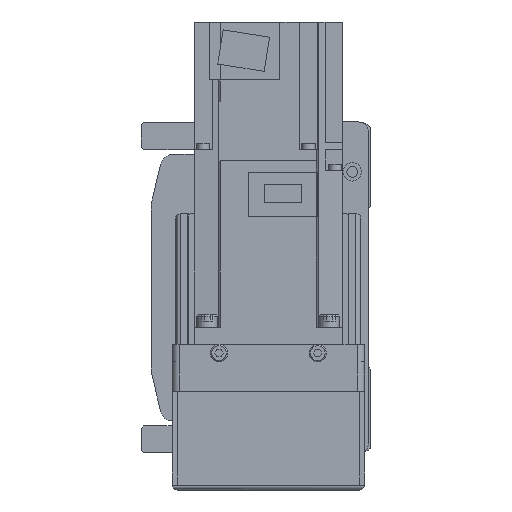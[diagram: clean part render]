
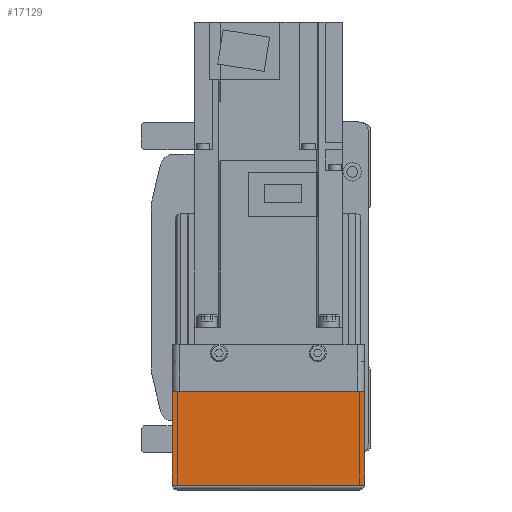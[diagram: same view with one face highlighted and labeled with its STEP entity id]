
A CAD part, left-side view. The second image highlights one B-rep face of the part: STEP entity #17129.
In plain terms, the highlighted planar face has unit normal (-1, 0, 0).
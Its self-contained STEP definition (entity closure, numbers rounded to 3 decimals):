
#2570=ORIENTED_EDGE('',*,*,#6903,.F.);
#2571=ORIENTED_EDGE('',*,*,#6904,.F.);
#2572=ORIENTED_EDGE('',*,*,#6905,.T.);
#2573=ORIENTED_EDGE('',*,*,#6906,.F.);
#6903=EDGE_CURVE('',#9168,#9159,#10937,.T.);
#6904=EDGE_CURVE('',#9185,#9168,#10938,.T.);
#6905=EDGE_CURVE('',#9185,#9186,#10939,.T.);
#6906=EDGE_CURVE('',#9159,#9186,#10940,.T.);
#9159=VERTEX_POINT('',#26322);
#9168=VERTEX_POINT('',#26340);
#9185=VERTEX_POINT('',#26388);
#9186=VERTEX_POINT('',#26390);
#10937=LINE('',#26386,#12547);
#10938=LINE('',#26387,#12548);
#10939=LINE('',#26389,#12549);
#10940=LINE('',#26391,#12550);
#12547=VECTOR('',#21121,1000.);
#12548=VECTOR('',#21122,1000.);
#12549=VECTOR('',#21123,1000.);
#12550=VECTOR('',#21124,1000.);
#13989=EDGE_LOOP('',(#2570,#2571,#2572,#2573));
#15279=FACE_BOUND('',#13989,.T.);
#16410=PLANE('',#18355);
#17129=ADVANCED_FACE('',(#15279),#16410,.F.);
#18355=AXIS2_PLACEMENT_3D('',#26385,#21119,#21120);
#21119=DIRECTION('',(1.,0.,0.));
#21120=DIRECTION('',(0.,0.,-1.));
#21121=DIRECTION('',(0.,-1.,0.));
#21122=DIRECTION('',(0.,0.,1.));
#21123=DIRECTION('',(0.,-1.,0.));
#21124=DIRECTION('',(0.,0.,-1.));
#26322=CARTESIAN_POINT('',(-158.,-39.,-12.1));
#26340=CARTESIAN_POINT('',(-158.,39.,-12.1));
#26385=CARTESIAN_POINT('',(-158.,36.,7.));
#26386=CARTESIAN_POINT('',(-158.,50.,-12.1));
#26387=CARTESIAN_POINT('',(-158.,39.,-50.));
#26388=CARTESIAN_POINT('',(-158.,39.,-50.));
#26389=CARTESIAN_POINT('',(-158.,40.,-50.));
#26390=CARTESIAN_POINT('',(-158.,-39.,-50.));
#26391=CARTESIAN_POINT('',(-158.,-39.,-12.1));
